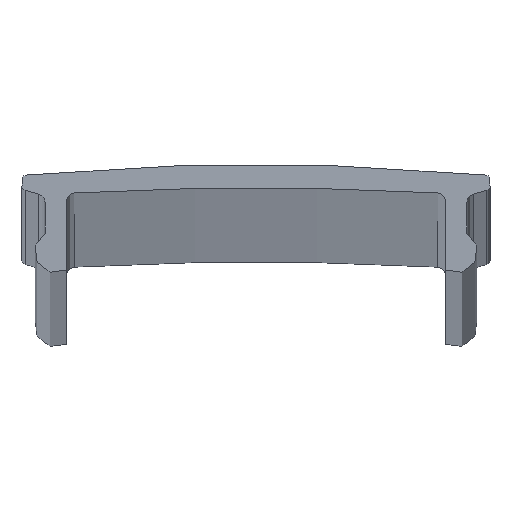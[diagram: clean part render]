
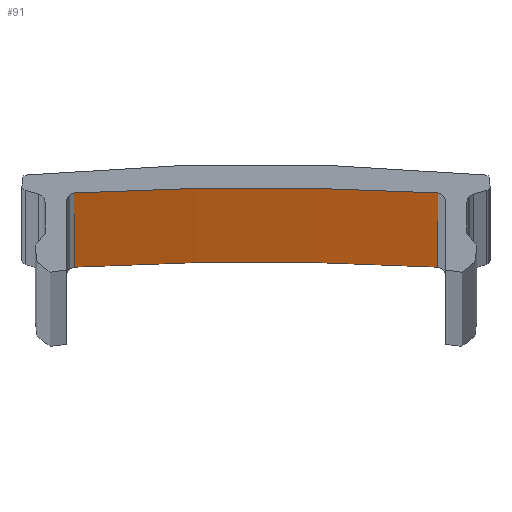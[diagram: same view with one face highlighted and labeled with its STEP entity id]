
A CAD part, top view. The second image highlights one B-rep face of the part: STEP entity #91.
In plain terms, the highlighted cylindrical face has radius 152.974 mm (diameter 305.947 mm), a partial arc.
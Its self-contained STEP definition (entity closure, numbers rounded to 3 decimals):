
#20 = ORIENTED_EDGE ( 'NONE', *, *, #226, .T. ) ;
#45 = CARTESIAN_POINT ( 'NONE',  ( 0.007, -154.073, 2000. ) ) ;
#46 = ORIENTED_EDGE ( 'NONE', *, *, #428, .F. ) ;
#91 = ADVANCED_FACE ( 'NONE', ( #325 ), #612, .F. ) ;
#182 = AXIS2_PLACEMENT_3D ( 'NONE', #324, #492, #217 ) ;
#202 = DIRECTION ( 'NONE',  ( 0., 0., -1. ) ) ;
#217 = DIRECTION ( 'NONE',  ( -1., 0., 0. ) ) ;
#226 = EDGE_CURVE ( 'NONE', #523, #471, #415, .T. ) ;
#227 = DIRECTION ( 'NONE',  ( 0., 0., -1. ) ) ;
#251 = LINE ( 'NONE', #314, #685 ) ;
#279 = AXIS2_PLACEMENT_3D ( 'NONE', #714, #202, #479 ) ;
#314 = CARTESIAN_POINT ( 'NONE',  ( -8.549, -1.339, 2000. ) ) ;
#324 = CARTESIAN_POINT ( 'NONE',  ( 0.007, -154.073, 2000. ) ) ;
#325 = FACE_OUTER_BOUND ( 'NONE', #521, .T. ) ;
#354 = VERTEX_POINT ( 'NONE', #535 ) ;
#360 = EDGE_CURVE ( 'NONE', #354, #523, #251, .T. ) ;
#415 = CIRCLE ( 'NONE', #279, 152.973 ) ;
#427 = LINE ( 'NONE', #729, #698 ) ;
#428 = EDGE_CURVE ( 'NONE', #354, #467, #552, .T. ) ;
#448 = CARTESIAN_POINT ( 'NONE',  ( 8.549, -1.339, 2000. ) ) ;
#454 = DIRECTION ( 'NONE',  ( 1., 0., 0. ) ) ;
#467 = VERTEX_POINT ( 'NONE', #448 ) ;
#471 = VERTEX_POINT ( 'NONE', #625 ) ;
#479 = DIRECTION ( 'NONE',  ( 1., 0., 0. ) ) ;
#488 = AXIS2_PLACEMENT_3D ( 'NONE', #45, #227, #454 ) ;
#492 = DIRECTION ( 'NONE',  ( 0., 0., -1. ) ) ;
#521 = EDGE_LOOP ( 'NONE', ( #20, #677, #46, #629 ) ) ;
#523 = VERTEX_POINT ( 'NONE', #659 ) ;
#535 = CARTESIAN_POINT ( 'NONE',  ( -8.549, -1.339, 2000. ) ) ;
#552 = CIRCLE ( 'NONE', #488, 152.973 ) ;
#612 = CYLINDRICAL_SURFACE ( 'NONE', #182, 152.973 ) ;
#625 = CARTESIAN_POINT ( 'NONE',  ( 8.549, -1.339, 0. ) ) ;
#628 = DIRECTION ( 'NONE',  ( 0., 0., -1. ) ) ;
#629 = ORIENTED_EDGE ( 'NONE', *, *, #360, .T. ) ;
#631 = EDGE_CURVE ( 'NONE', #467, #471, #427, .T. ) ;
#659 = CARTESIAN_POINT ( 'NONE',  ( -8.549, -1.339, 0. ) ) ;
#677 = ORIENTED_EDGE ( 'NONE', *, *, #631, .F. ) ;
#685 = VECTOR ( 'NONE', #723, 1000. ) ;
#698 = VECTOR ( 'NONE', #628, 1000. ) ;
#714 = CARTESIAN_POINT ( 'NONE',  ( 0.007, -154.073, 0. ) ) ;
#723 = DIRECTION ( 'NONE',  ( 0., 0., -1. ) ) ;
#729 = CARTESIAN_POINT ( 'NONE',  ( 8.549, -1.339, 2000. ) ) ;
